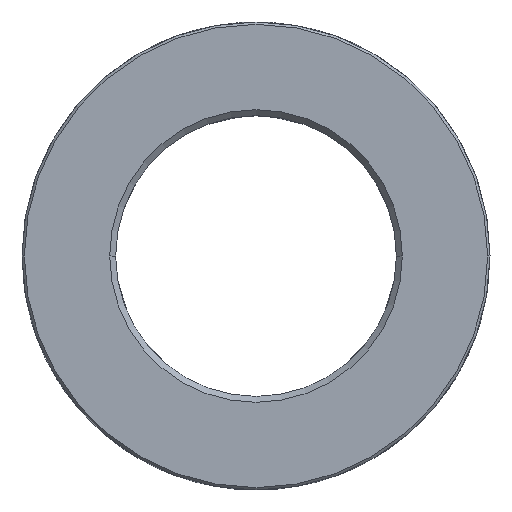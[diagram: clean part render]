
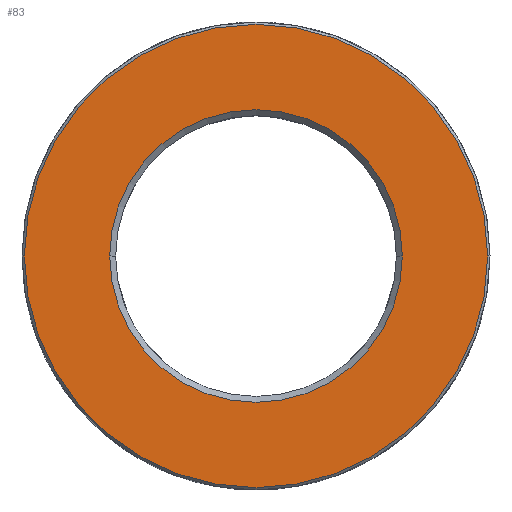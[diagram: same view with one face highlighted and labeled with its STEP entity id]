
A CAD part, top view. The second image highlights one B-rep face of the part: STEP entity #83.
In plain terms, the highlighted planar face has unit normal (0, 0, 1).
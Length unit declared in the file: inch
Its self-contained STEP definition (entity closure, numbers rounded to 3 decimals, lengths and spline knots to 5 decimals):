
#19 = PLANE ( 'NONE',  #1726 ) ;
#41 = CARTESIAN_POINT ( 'NONE',  ( -0.61555, 0., 0. ) ) ;
#83 = ADVANCED_FACE ( 'NONE', ( #881, #1311 ), #19, .T. ) ;
#86 = CIRCLE ( 'NONE', #448, 0.9745 ) ;
#122 = CIRCLE ( 'NONE', #238, 0.61555 ) ;
#146 = EDGE_CURVE ( 'NONE', #867, #1705, #86, .T. ) ;
#238 = AXIS2_PLACEMENT_3D ( 'NONE', #837, #1533, #1718 ) ;
#407 = EDGE_LOOP ( 'NONE', ( #681, #665 ) ) ;
#448 = AXIS2_PLACEMENT_3D ( 'NONE', #924, #1356, #1507 ) ;
#554 = DIRECTION ( 'NONE',  ( 0., 0., 1. ) ) ;
#560 = VERTEX_POINT ( 'NONE', #41 ) ;
#659 = VERTEX_POINT ( 'NONE', #1669 ) ;
#665 = ORIENTED_EDGE ( 'NONE', *, *, #1872, .T. ) ;
#670 = DIRECTION ( 'NONE',  ( 0., 0., -1. ) ) ;
#673 = EDGE_LOOP ( 'NONE', ( #1103, #1643 ) ) ;
#681 = ORIENTED_EDGE ( 'NONE', *, *, #146, .T. ) ;
#724 = CIRCLE ( 'NONE', #844, 0.61555 ) ;
#773 = EDGE_CURVE ( 'NONE', #560, #659, #724, .T. ) ;
#795 = DIRECTION ( 'NONE',  ( 0., 0., 1. ) ) ;
#837 = CARTESIAN_POINT ( 'NONE',  ( 0., 0., 0. ) ) ;
#844 = AXIS2_PLACEMENT_3D ( 'NONE', #976, #670, #1556 ) ;
#867 = VERTEX_POINT ( 'NONE', #1308 ) ;
#881 = FACE_OUTER_BOUND ( 'NONE', #407, .T. ) ;
#924 = CARTESIAN_POINT ( 'NONE',  ( 0., 0., 0. ) ) ;
#976 = CARTESIAN_POINT ( 'NONE',  ( 0., 0., 0. ) ) ;
#1017 = DIRECTION ( 'NONE',  ( 1., 0., 0. ) ) ;
#1029 = CARTESIAN_POINT ( 'NONE',  ( 0.9745, 0., 0. ) ) ;
#1103 = ORIENTED_EDGE ( 'NONE', *, *, #1154, .T. ) ;
#1134 = CARTESIAN_POINT ( 'NONE',  ( 0., 0., 0. ) ) ;
#1154 = EDGE_CURVE ( 'NONE', #659, #560, #122, .T. ) ;
#1274 = CIRCLE ( 'NONE', #1790, 0.9745 ) ;
#1308 = CARTESIAN_POINT ( 'NONE',  ( -0.9745, 0., 0. ) ) ;
#1311 = FACE_BOUND ( 'NONE', #673, .T. ) ;
#1356 = DIRECTION ( 'NONE',  ( 0., 0., 1. ) ) ;
#1507 = DIRECTION ( 'NONE',  ( 1., 0., 0. ) ) ;
#1531 = CARTESIAN_POINT ( 'NONE',  ( 0., 0., 0. ) ) ;
#1533 = DIRECTION ( 'NONE',  ( 0., 0., -1. ) ) ;
#1556 = DIRECTION ( 'NONE',  ( 1., 0., 0. ) ) ;
#1643 = ORIENTED_EDGE ( 'NONE', *, *, #773, .T. ) ;
#1669 = CARTESIAN_POINT ( 'NONE',  ( 0.61555, 0., 0. ) ) ;
#1705 = VERTEX_POINT ( 'NONE', #1029 ) ;
#1718 = DIRECTION ( 'NONE',  ( 1., 0., 0. ) ) ;
#1726 = AXIS2_PLACEMENT_3D ( 'NONE', #1134, #554, #1017 ) ;
#1740 = DIRECTION ( 'NONE',  ( 1., 0., 0. ) ) ;
#1790 = AXIS2_PLACEMENT_3D ( 'NONE', #1531, #795, #1740 ) ;
#1872 = EDGE_CURVE ( 'NONE', #1705, #867, #1274, .T. ) ;
